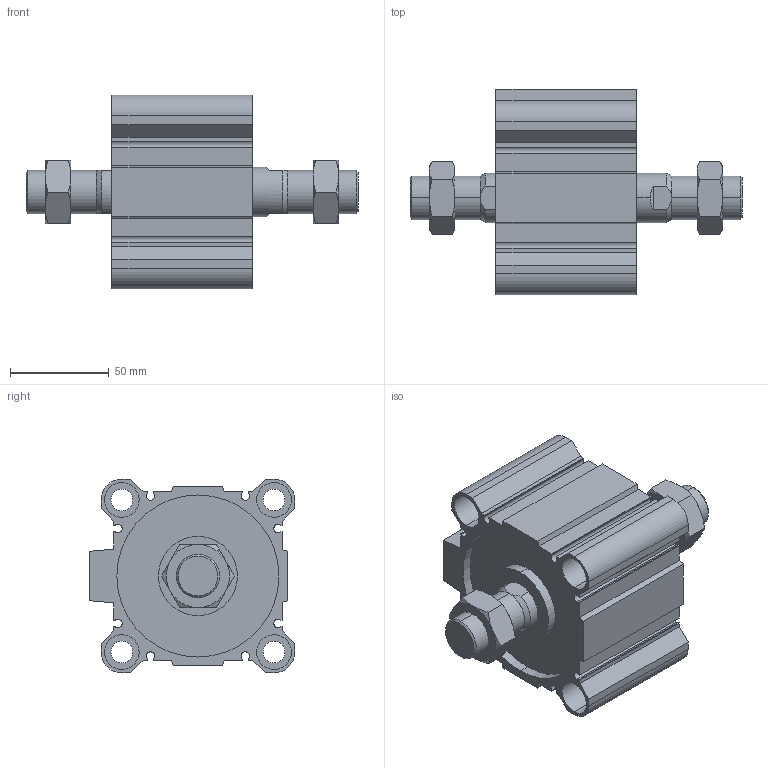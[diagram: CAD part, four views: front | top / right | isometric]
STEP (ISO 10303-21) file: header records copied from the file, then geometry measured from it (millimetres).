
FILE_DESCRIPTION (( 'STEP AP203' ), '1' );
FILE_NAME ('CCMB80-10M-P.STEP', '2020-08-10T11:52:40', ( '' ), ( '' ), 'SwSTEP 2.0', 'SolidWorks 2019', '' );
FILE_SCHEMA (( 'CONFIG_CONTROL_DESIGN' ));
Length unit declared in the file: millimetre
Products named in the file (1): CCMB80-10M-P
Bounding box: 168 x 104 x 98 mm (x, y, z)
Volume: 514640.4 mm3; surface area: 126366.3 mm2
Topology: 4 solids, 4 shells, 228 faces, 558 edges, 356 vertices
Faces by surface type: plane 106, cylinder 78, cone 44
Entity records: 7569 total; most frequent: CARTESIAN_POINT 2055, DIRECTION 1148, ORIENTED_EDGE 1116, EDGE_CURVE 558, AXIS2_PLACEMENT_3D 425, VERTEX_POINT 356, VECTOR 298, LINE 298
